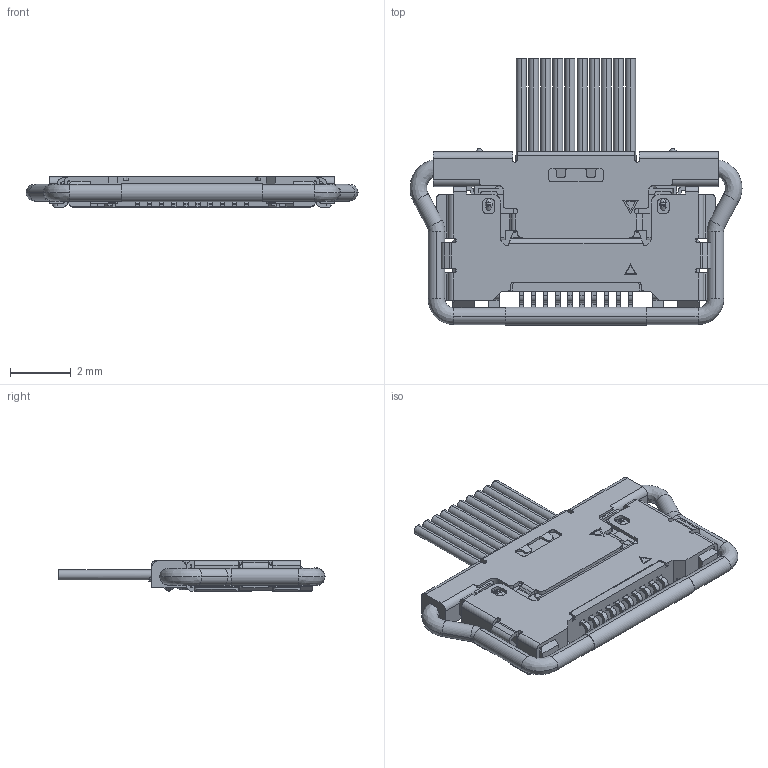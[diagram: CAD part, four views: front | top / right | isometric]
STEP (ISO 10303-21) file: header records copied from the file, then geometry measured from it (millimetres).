
FILE_DESCRIPTION (( 'STEP AP203' ), '1' );
FILE_NAME ('20736-010t-01S+20738-010E-02C MATING ASS''Y STEP R0R0R1R0 ALL.STEP', '2016-03-29T01:32:32', ( '' ), ( '' ), 'SwSTEP 2.0', 'SolidWorks 2012', '' );
FILE_SCHEMA (( 'CONFIG_CONTROL_DESIGN' ));
Length unit declared in the file: millimetre
Products named in the file (1): 20736-010t-01S+20738-010E-02C MATING ASS''Y STEP R0R0R1R0 ALL
Bounding box: 10.95 x 8.78 x 1 mm (x, y, z)
Volume: 45.6 mm3; surface area: 208.7 mm2
Topology: 1 solids, 1 shells, 882 faces, 2491 edges, 1622 vertices
Faces by surface type: plane 546, cylinder 284, bspline 31, cone 21
Entity records: 29598 total; most frequent: CARTESIAN_POINT 6623, ORIENTED_EDGE 4958, DIRECTION 4627, EDGE_CURVE 2479, VECTOR 1767, LINE 1767, VERTEX_POINT 1622, AXIS2_PLACEMENT_3D 1430
